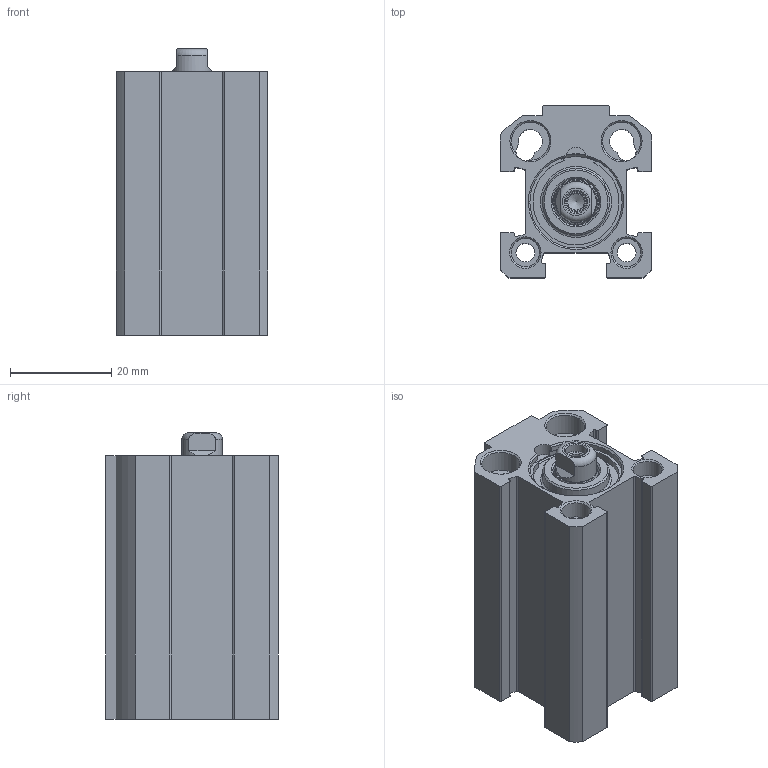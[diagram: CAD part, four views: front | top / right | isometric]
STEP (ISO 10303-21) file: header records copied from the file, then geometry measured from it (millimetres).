
FILE_DESCRIPTION(/* description */ ('Unknown'),/* implementation_level */ '2;1');
FILE_NAME(/* name */ 'FIN 16_20',/* time_stamp */ '2026-05-12T07:41:31+02:00',/* author */ ('Unknown'),/* organization */ ('Unknown'),/* preprocessor_version */ 'ST-DEVELOPER v18.102',/* originating_system */ 'Solid Edge',/* authorisation */ 'Unknown');
FILE_SCHEMA (('AUTOMOTIVE_DESIGN {1 0 10303 214 3 1 1}'));
Length unit declared in the file: millimetre
Products named in the file (5): FIN 16_20; Kolbenstange; Profilrohr; Kit_1; Kit_2
Assembly tree (4 placements, depth 2):
  FIN 16_20
    Kolbenstange
    Profilrohr
    Kit_1
    Kit_2
Bounding box: 30 x 34 x 56.5 mm (x, y, z)
Volume: 32251.8 mm3; surface area: 19623.7 mm2
Topology: 6 solids, 6 shells, 191 faces, 467 edges, 304 vertices
Faces by surface type: plane 78, cylinder 74, cone 30, torus 9
Full cylindrical faces by diameter (mm): 1.3 x2, 3.242 x2, 3.7 x2, 4.134 x4, 4.25 x1, 5.6 x4, 8 x1, 8.42 x1, 9.2 x1, 11.36 x1, 11.5 x1, 13.2 x1, 14 x1, 16 x2, 17.9 x4, 19 x2
Entity records: 6501 total; most frequent: CARTESIAN_POINT 1044, DIRECTION 956, ORIENTED_EDGE 776, AXIS2_PLACEMENT_3D 395, EDGE_CURVE 388, VERTEX_POINT 287, FACE_BOUND 285, EDGE_LOOP 284
